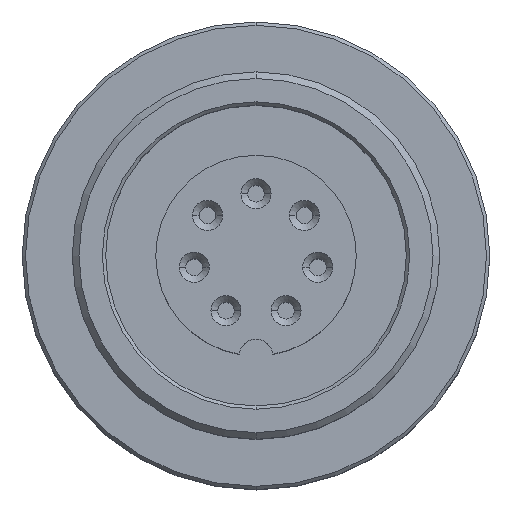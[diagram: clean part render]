
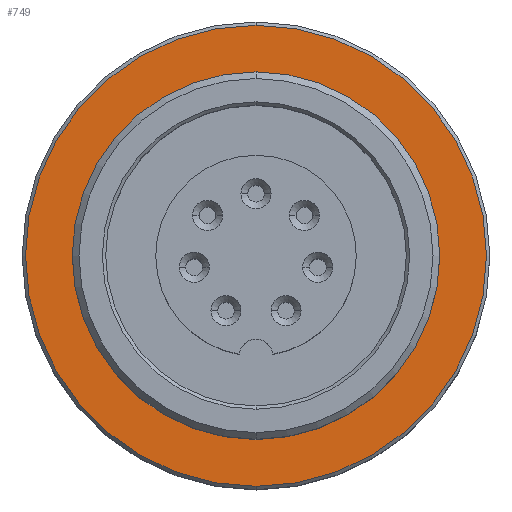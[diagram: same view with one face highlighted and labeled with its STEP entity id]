
A CAD part, top view. The second image highlights one B-rep face of the part: STEP entity #749.
In plain terms, the highlighted planar face has unit normal (0, 0, 1).
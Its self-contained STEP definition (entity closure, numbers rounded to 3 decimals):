
#548=PLANE('',#2642);
#572=FACE_BOUND('',#1033,.T.);
#573=FACE_BOUND('',#1034,.T.);
#749=ADVANCED_FACE('',(#572,#573),#548,.T.);
#1033=EDGE_LOOP('',(#1627,#1628));
#1034=EDGE_LOOP('',(#1629,#1630));
#1065=CIRCLE('',#2430,5.5);
#1087=CIRCLE('',#2462,6.9);
#1177=CIRCLE('',#2640,6.9);
#1178=CIRCLE('',#2641,5.5);
#1627=ORIENTED_EDGE('',*,*,#1964,.F.);
#1628=ORIENTED_EDGE('',*,*,#2176,.F.);
#1629=ORIENTED_EDGE('',*,*,#1923,.T.);
#1630=ORIENTED_EDGE('',*,*,#2177,.T.);
#1747=VERTEX_POINT('',#3310);
#1749=VERTEX_POINT('',#3314);
#1786=VERTEX_POINT('',#3406);
#1787=VERTEX_POINT('',#3408);
#1923=EDGE_CURVE('',#1747,#1749,#1065,.T.);
#1964=EDGE_CURVE('',#1786,#1787,#1087,.T.);
#2176=EDGE_CURVE('',#1787,#1786,#1177,.T.);
#2177=EDGE_CURVE('',#1749,#1747,#1178,.T.);
#2430=AXIS2_PLACEMENT_3D('',#3315,#2691,#2692);
#2462=AXIS2_PLACEMENT_3D('',#3407,#2772,#2773);
#2640=AXIS2_PLACEMENT_3D('',#3888,#3224,#3225);
#2641=AXIS2_PLACEMENT_3D('',#3889,#3226,#3227);
#2642=AXIS2_PLACEMENT_3D('',#3890,#3228,#3229);
#2691=DIRECTION('',(0.,0.,-1.));
#2692=DIRECTION('',(0.,1.,0.));
#2772=DIRECTION('',(0.,0.,-1.));
#2773=DIRECTION('',(0.,1.,0.));
#3224=DIRECTION('',(0.,0.,-1.));
#3225=DIRECTION('',(0.,1.,0.));
#3226=DIRECTION('',(0.,0.,-1.));
#3227=DIRECTION('',(0.,1.,0.));
#3228=DIRECTION('',(0.,0.,1.));
#3229=DIRECTION('',(0.,1.,0.));
#3310=CARTESIAN_POINT('',(0.,5.5,-5.5));
#3314=CARTESIAN_POINT('',(0.,-5.5,-5.5));
#3315=CARTESIAN_POINT('',(0.,0.,-5.5));
#3406=CARTESIAN_POINT('',(0.,6.9,-5.5));
#3407=CARTESIAN_POINT('',(0.,0.,-5.5));
#3408=CARTESIAN_POINT('',(0.,-6.9,-5.5));
#3888=CARTESIAN_POINT('',(0.,0.,-5.5));
#3889=CARTESIAN_POINT('',(0.,0.,-5.5));
#3890=CARTESIAN_POINT('',(0.,6.2,-5.5));
